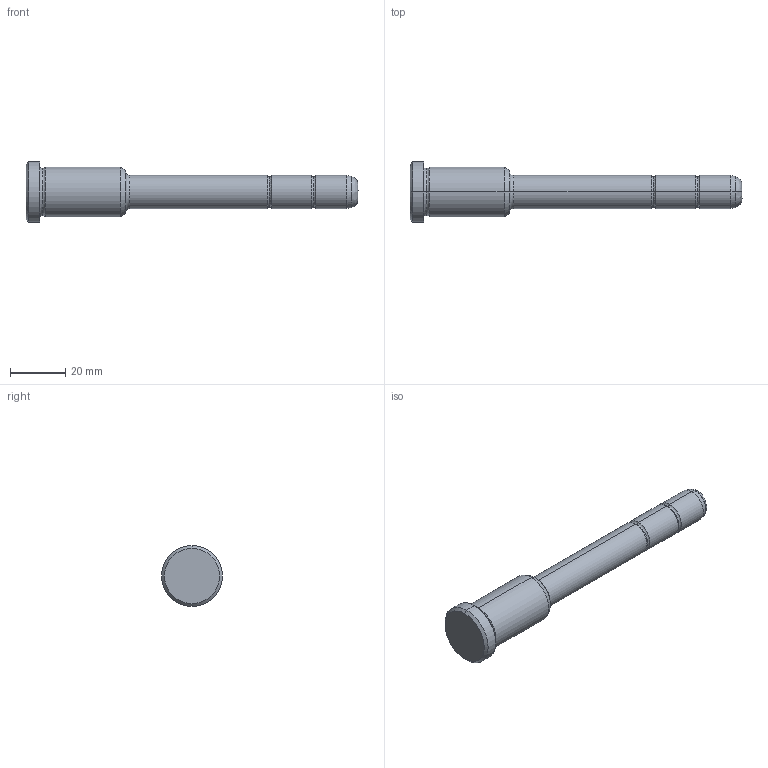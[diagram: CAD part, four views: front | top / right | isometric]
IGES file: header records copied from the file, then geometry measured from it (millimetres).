
Start section: START RECORD GO HERE.
Global section: file name: 351-12X36X120.igs; native system: DASSAULT SYSTEMES CATIA V5 R20 - www.3ds.com; preprocessor: CATIA Version 5 Release 20 ; author: Utente; organization: NB04-ASUS; date: 20210817.143239; units: millimetre
Bounding box: 120 x 22 x 22 mm (x, y, z)
Surface area: 5878.1 mm2 (no closed solid volume)
Topology: 0 solids, 0 shells, 36 faces, 204 edges, 204 vertices
Faces by surface type: revolution 30, plane 4, bspline 2
